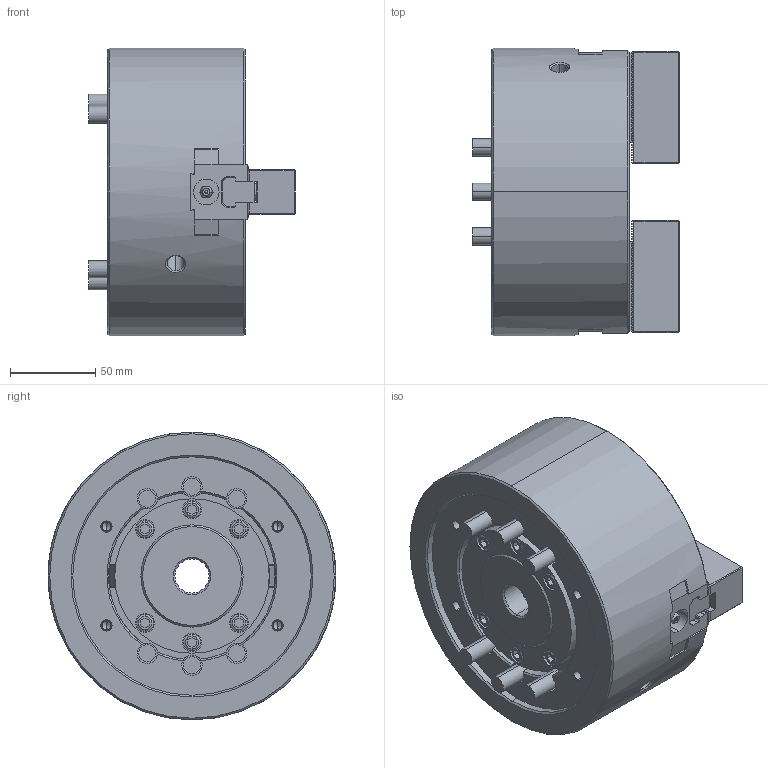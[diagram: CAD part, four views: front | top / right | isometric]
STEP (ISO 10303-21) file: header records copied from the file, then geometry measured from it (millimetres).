
FILE_DESCRIPTION (( 'STEP AP214' ), '1' );
FILE_NAME ('BT206_61P216125-7_OC.STEP', '2020-12-11T06:52:45', ( '' ), ( '' ), 'SwSTEP 2.0', 'SolidWorks 2017', '' );
FILE_SCHEMA (( 'AUTOMOTIVE_DESIGN' ));
Length unit declared in the file: millimetre
Products named in the file (14): Bアナツキ M10×25; 61P321203-3_ソフトジョー; 61P447483-1_俿僫僢僩; BT206_61P216125-7_OC; BT206_BASE^61P216122-9_クミタテ
Assembly tree (9 placements, depth 2):
  Bアナツキ M10×25
  Bアナツキ M10×25
  61P321203-3_ソフトジョー
  61P447483-1_俿僫僢僩
  Bアナツキ M10×25
Bounding box: 121.2 x 169 x 169 mm (x, y, z)
Volume: 1671311.2 mm3; surface area: 201873 mm2
Topology: 9 solids, 19 shells, 2361 faces, 6448 edges, 4219 vertices
Faces by surface type: plane 1816, cylinder 259, cone 143, bspline 113, torus 22, sphere 8
Entity records: 66066 total; most frequent: CARTESIAN_POINT 16091, ORIENTED_EDGE 10738, DIRECTION 9534, EDGE_CURVE 5369, VECTOR 4240, LINE 4240, VERTEX_POINT 3519, AXIS2_PLACEMENT_3D 2647
